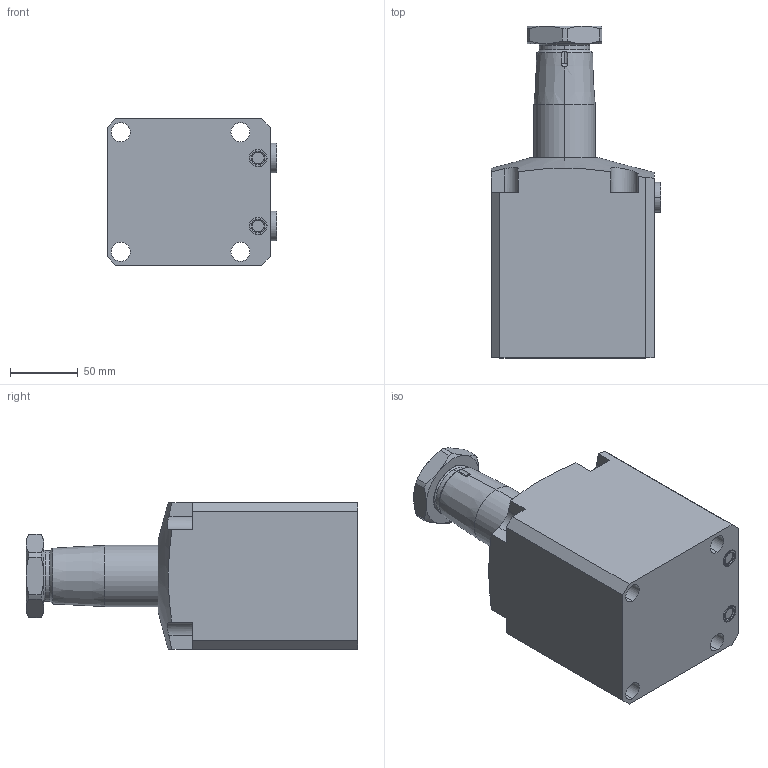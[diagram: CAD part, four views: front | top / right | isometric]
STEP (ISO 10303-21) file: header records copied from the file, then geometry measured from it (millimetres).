
FILE_DESCRIPTION(/* description */ (''),/* implementation_level */ '2;1');
FILE_NAME(/* name */ 'BRC25-L.stp',/* time_stamp */ '2025-01-05T09:25:31+08:00',/* author */ (''),/* organization */ (''),/* preprocessor_version */ 'ST-DEVELOPER v16.7',/* originating_system */ 'SIEMENS PLM Software NX 12.0',/* authorisation */ '');
FILE_SCHEMA (('AUTOMOTIVE_DESIGN { 1 0 10303 214 3 1 1 1 }'));
Length unit declared in the file: millimetre
Products named in the file (5): BRC25-L-03; BRC25-L-04; BRC25-L-02; BRC25-L-01; BRC25-L_stp
Assembly tree (5 placements, depth 2):
  BRC25-L_stp
    BRC25-L-01
    BRC25-L-02
    BRC25-L-04  x2
    BRC25-L-03
Bounding box: 124.8 x 244 x 108 mm (x, y, z)
Volume: 1831681.3 mm3; surface area: 141709.9 mm2
Topology: 7 solids, 7 shells, 176 faces, 401 edges, 248 vertices
Faces by surface type: plane 68, cylinder 57, cone 34, torus 16, sphere 1
Full cylindrical faces by diameter (mm): 13.15 x2
Entity records: 4661 total; most frequent: CARTESIAN_POINT 958, DIRECTION 778, ORIENTED_EDGE 712, EDGE_CURVE 356, AXIS2_PLACEMENT_3D 313, VERTEX_POINT 222, EDGE_LOOP 180, ADVANCED_FACE 156
